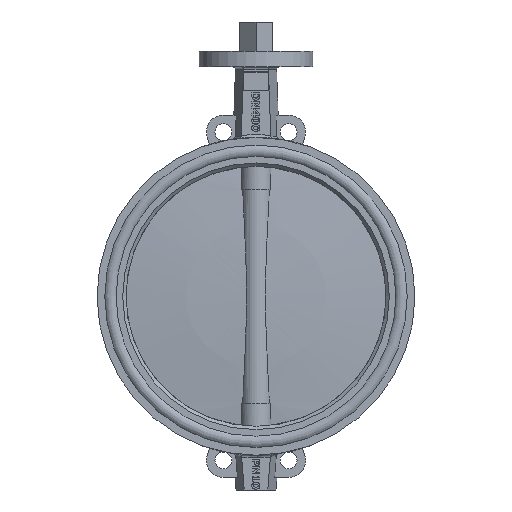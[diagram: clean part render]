
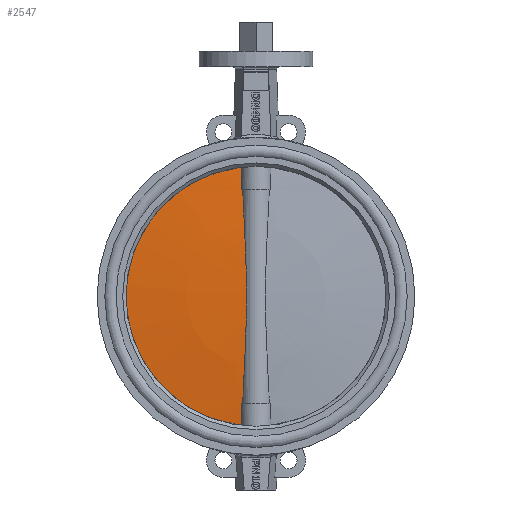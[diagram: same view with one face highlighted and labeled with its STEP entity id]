
A CAD part, left-side view. The second image highlights one B-rep face of the part: STEP entity #2547.
In plain terms, the highlighted spherical face has radius 1910.01 mm.
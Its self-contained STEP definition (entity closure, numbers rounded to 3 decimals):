
#2547=ADVANCED_FACE('',(#5852),#5854,.T.);
#5852=FACE_BOUND('',#5853,.T.);
#5853=EDGE_LOOP('',(#8318,#8319,#8320,#8321,#8322,#8323));
#5854=SPHERICAL_SURFACE('',#5855,1910.012);
#5855=AXIS2_PLACEMENT_3D('',#5856,#5857,#5858);
#5856=CARTESIAN_POINT('',(0.,-1892.012,0.));
#5857=DIRECTION('',(0.,-1.,0.));
#5858=DIRECTION('',(0.,0.,1.));
#8318=ORIENTED_EDGE('',*,*,#9307,.F.);
#8319=ORIENTED_EDGE('',*,*,#9319,.F.);
#8320=ORIENTED_EDGE('',*,*,#9320,.T.);
#8321=ORIENTED_EDGE('',*,*,#9321,.F.);
#8322=ORIENTED_EDGE('',*,*,#9290,.F.);
#8323=ORIENTED_EDGE('',*,*,#9318,.T.);
#9290=EDGE_CURVE('',#10915,#10916,#10917,.F.);
#9307=EDGE_CURVE('',#10948,#10933,#10950,.T.);
#9318=EDGE_CURVE('',#10915,#10933,#10965,.T.);
#9319=EDGE_CURVE('',#10966,#10948,#10967,.T.);
#9320=EDGE_CURVE('',#10966,#10968,#10969,.T.);
#9321=EDGE_CURVE('',#10916,#10968,#10970,.F.);
#10915=VERTEX_POINT('',#16779);
#10916=VERTEX_POINT('',#16780);
#10917=B_SPLINE_CURVE_WITH_KNOTS('',3,
(#16781,#16782,#16783,#16784,#16785,#16786,#16787),
.UNSPECIFIED.,.F.,.F.,
(4,1,1,1,4),
(0.,0.238,0.478,0.733,1.),
.UNSPECIFIED.);
#10933=VERTEX_POINT('',#16911);
#10948=VERTEX_POINT('',#17031);
#10950=B_SPLINE_CURVE_WITH_KNOTS('',3,
(#17036,#17037,#17038,#17039,#17040,#17041,#17042),
.UNSPECIFIED.,.F.,.F.,
(4,1,1,1,4),
(0.,0.238,0.478,0.733,1.),
.UNSPECIFIED.);
#10965=CIRCLE('',#17155,200.);
#10966=VERTEX_POINT('',#17159);
#10967=CIRCLE('',#17160,1902.932);
#10968=VERTEX_POINT('',#17164);
#10969=B_SPLINE_CURVE_WITH_KNOTS('',3,
(#17165,#17166,#17167,#17168,#17169,#17170,#17171,#17172,#17173,#17174,#17175,#17176,
#17177,#17178,#17179,#17180,#17181,#17182,#17183,#17184,#17185,#17186,#17187,#17188,
#17189,#17190,#17191,#17192,#17193,#17194,#17195,#17196,#17197,#17198,#17199,#17200,
#17201,#17202),
.UNSPECIFIED.,.F.,.F.,
(4,1,1,1,1,1,1,1,1,1,1,1,1,1,1,1,1,1,1,1,1,1,1,1,1,1,1,1,1,1,1,1,1,1,1,4),
(0.,0.036,0.071,0.106,0.141,0.175,
0.208,0.24,0.272,0.303,0.333,
0.362,0.389,0.416,0.441,0.465,
0.495,0.5,0.524,0.552,0.572,
0.592,0.623,0.665,0.709,0.745,
0.778,0.81,0.839,0.861,0.884,
0.907,0.93,0.953,0.977,1.),
.UNSPECIFIED.);
#10970=CIRCLE('',#17203,1902.932);
#16779=CARTESIAN_POINT('',(23.035,7.5,198.669));
#16780=CARTESIAN_POINT('',(21.686,10.797,164.3));
#16781=CARTESIAN_POINT('',(21.686,10.797,164.3));
#16782=CARTESIAN_POINT('',(21.804,10.56,167.024));
#16783=CARTESIAN_POINT('',(22.037,10.072,172.504));
#16784=CARTESIAN_POINT('',(22.379,9.289,180.902));
#16785=CARTESIAN_POINT('',(22.716,8.434,189.636));
#16786=CARTESIAN_POINT('',(22.93,7.821,195.612));
#16787=CARTESIAN_POINT('',(23.035,7.5,198.669));
#16911=CARTESIAN_POINT('',(23.035,7.5,-198.669));
#17031=CARTESIAN_POINT('',(21.686,10.797,-164.3));
#17036=CARTESIAN_POINT('',(21.686,10.797,-164.3));
#17037=CARTESIAN_POINT('',(21.804,10.56,-167.024));
#17038=CARTESIAN_POINT('',(22.037,10.072,-172.504));
#17039=CARTESIAN_POINT('',(22.379,9.289,-180.902));
#17040=CARTESIAN_POINT('',(22.716,8.434,-189.636));
#17041=CARTESIAN_POINT('',(22.93,7.821,-195.612));
#17042=CARTESIAN_POINT('',(23.035,7.5,-198.669));
#17155=AXIS2_PLACEMENT_3D('',#17156,#17157,#17158);
#17156=CARTESIAN_POINT('',(0.,7.5,0.));
#17157=DIRECTION('',(0.,1.,0.));
#17158=DIRECTION('',(0.115,0.,0.993));
#17159=CARTESIAN_POINT('',(20.507,10.81,-164.3));
#17160=AXIS2_PLACEMENT_3D('',#17161,#17162,#17163);
#17161=CARTESIAN_POINT('',(0.,-1892.012,-164.3));
#17162=DIRECTION('',(0.,0.,-1.));
#17163=DIRECTION('',(0.011,1.,0.));
#17164=CARTESIAN_POINT('',(20.507,10.81,164.3));
#17165=CARTESIAN_POINT('',(20.507,10.81,-164.3));
#17166=CARTESIAN_POINT('',(20.328,11.149,-160.394));
#17167=CARTESIAN_POINT('',(19.964,11.8,-152.615));
#17168=CARTESIAN_POINT('',(19.401,12.702,-140.996));
#17169=CARTESIAN_POINT('',(18.838,13.522,-129.517));
#17170=CARTESIAN_POINT('',(18.281,14.264,-118.179));
#17171=CARTESIAN_POINT('',(17.744,14.926,-107.053));
#17172=CARTESIAN_POINT('',(17.233,15.511,-96.138));
#17173=CARTESIAN_POINT('',(16.759,16.021,-85.507));
#17174=CARTESIAN_POINT('',(16.324,16.463,-75.088));
#17175=CARTESIAN_POINT('',(15.937,16.838,-64.951));
#17176=CARTESIAN_POINT('',(15.6,17.15,-55.097));
#17177=CARTESIAN_POINT('',(15.319,17.4,-45.668));
#17178=CARTESIAN_POINT('',(15.092,17.597,-36.593));
#17179=CARTESIAN_POINT('',(14.919,17.744,-27.943));
#17180=CARTESIAN_POINT('',(14.794,17.847,-19.647));
#17181=CARTESIAN_POINT('',(14.708,17.919,-10.97));
#17182=CARTESIAN_POINT('',(14.679,17.942,-4.456));
#17183=CARTESIAN_POINT('',(14.676,17.945,2.049));
#17184=CARTESIAN_POINT('',(14.692,17.932,8.363));
#17185=CARTESIAN_POINT('',(14.756,17.879,16.313));
#17186=CARTESIAN_POINT('',(14.854,17.797,23.827));
#17187=CARTESIAN_POINT('',(14.987,17.686,31.572));
#17188=CARTESIAN_POINT('',(15.209,17.497,41.681));
#17189=CARTESIAN_POINT('',(15.571,17.177,54.466));
#17190=CARTESIAN_POINT('',(16.04,16.741,67.888));
#17191=CARTESIAN_POINT('',(16.539,16.249,80.353));
#17192=CARTESIAN_POINT('',(17.017,15.747,91.373));
#17193=CARTESIAN_POINT('',(17.488,15.223,101.635));
#17194=CARTESIAN_POINT('',(17.921,14.71,110.729));
#17195=CARTESIAN_POINT('',(18.316,14.214,118.878));
#17196=CARTESIAN_POINT('',(18.68,13.732,126.314));
#17197=CARTESIAN_POINT('',(19.049,13.217,133.813));
#17198=CARTESIAN_POINT('',(19.419,12.667,141.377));
#17199=CARTESIAN_POINT('',(19.788,12.083,148.983));
#17200=CARTESIAN_POINT('',(20.152,11.465,156.632));
#17201=CARTESIAN_POINT('',(20.39,11.032,161.741));
#17202=CARTESIAN_POINT('',(20.507,10.81,164.3));
#17203=AXIS2_PLACEMENT_3D('',#17204,#17205,#17206);
#17204=CARTESIAN_POINT('',(0.,-1892.012,164.3));
#17205=DIRECTION('',(0.,0.,-1.));
#17206=DIRECTION('',(0.011,1.,0.));
